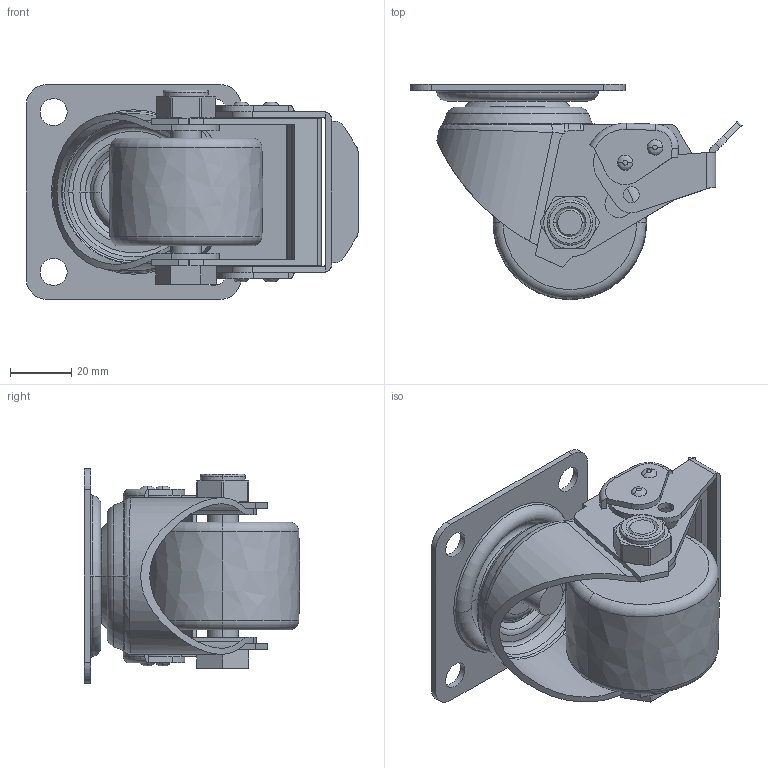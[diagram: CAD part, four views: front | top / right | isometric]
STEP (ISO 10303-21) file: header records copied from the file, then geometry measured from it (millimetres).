
FILE_DESCRIPTION((''),'2;1');
FILE_NAME('M41322_ASM','2022-01-18T',('lenovo'),(''),'PRO/ENGINEER BY PARAMETRIC TECHNOLOGY CORPORATION, 2010280','PRO/ENGINEER BY PARAMETRIC TECHNOLOGY CORPORATION, 2010280','');
FILE_SCHEMA(('CONFIG_CONTROL_DESIGN'));
Length unit declared in the file: millimetre
Products named in the file (11): M41350-311; M4130-201; M410-31; M412-16; M41350-535; M41350-531; M4130-461; M4130-462; M410-20-M10X57; 630-34; M41322_ASM
Assembly tree (10 placements, depth 2):
  M41322_ASM
    M41350-311
    M4130-201
    M410-31
    M412-16
    M41350-535
    M41350-531
    M4130-461
    M4130-462
    M410-20-M10X57
    630-34
Bounding box: 107.99 x 69.97 x 70 mm (x, y, z)
Volume: 110729.9 mm3; surface area: 56078.1 mm2
Topology: 10 solids, 10 shells, 351 faces, 871 edges, 550 vertices
Faces by surface type: cylinder 125, plane 117, torus 39, cone 34, bspline 34, sphere 2
Entity records: 12969 total; most frequent: CARTESIAN_POINT 4286, DIRECTION 1856, ORIENTED_EDGE 1742, EDGE_CURVE 871, AXIS2_PLACEMENT_3D 745, VERTEX_POINT 550, CIRCLE 407, EDGE_LOOP 401
